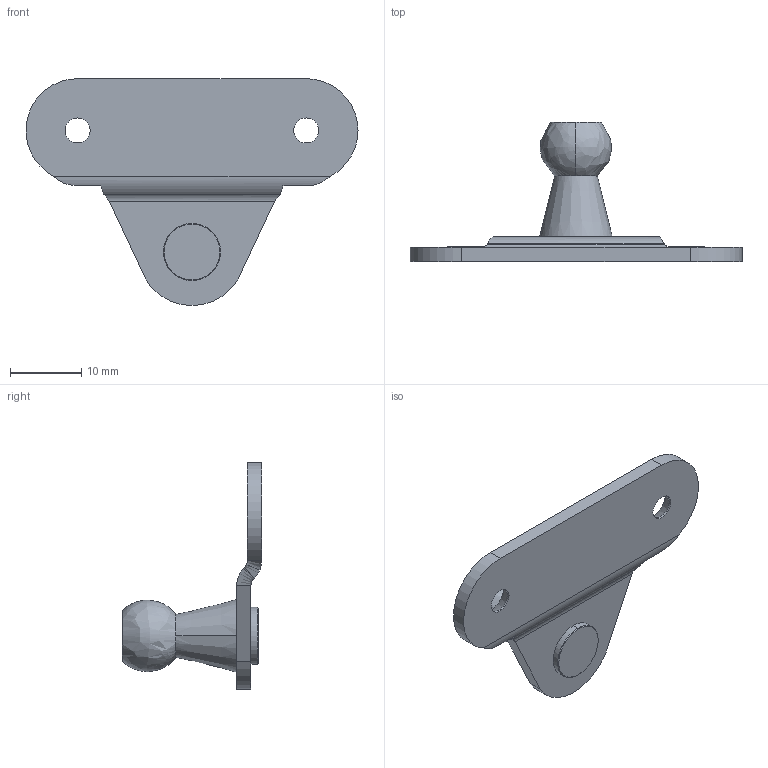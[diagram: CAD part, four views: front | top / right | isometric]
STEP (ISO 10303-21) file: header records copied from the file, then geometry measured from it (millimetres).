
FILE_DESCRIPTION (( 'STEP AP214' ), '1' );
FILE_NAME ('15.BVS-041.STEP', '2017-10-09T08:05:36', ( '' ), ( '' ), 'SwSTEP 2.0', 'SolidWorks 2016', '' );
FILE_SCHEMA (( 'AUTOMOTIVE_DESIGN' ));
Length unit declared in the file: millimetre
Products named in the file (1): 15.BVS-041
Bounding box: 46.48 x 19.5 x 31.73 mm (x, y, z)
Volume: 2785.2 mm3; surface area: 2569.5 mm2
Topology: 1 solids, 1 shells, 45 faces, 107 edges, 62 vertices
Faces by surface type: plane 15, cylinder 14, bspline 8, cone 8
Entity records: 1655 total; most frequent: CARTESIAN_POINT 625, ORIENTED_EDGE 206, DIRECTION 201, EDGE_CURVE 103, AXIS2_PLACEMENT_3D 74, VERTEX_POINT 62, VECTOR 53, LINE 53
